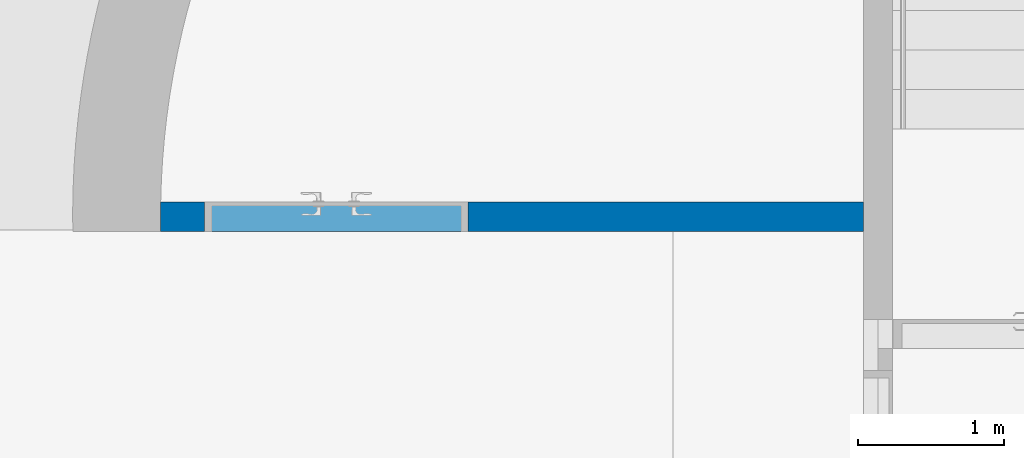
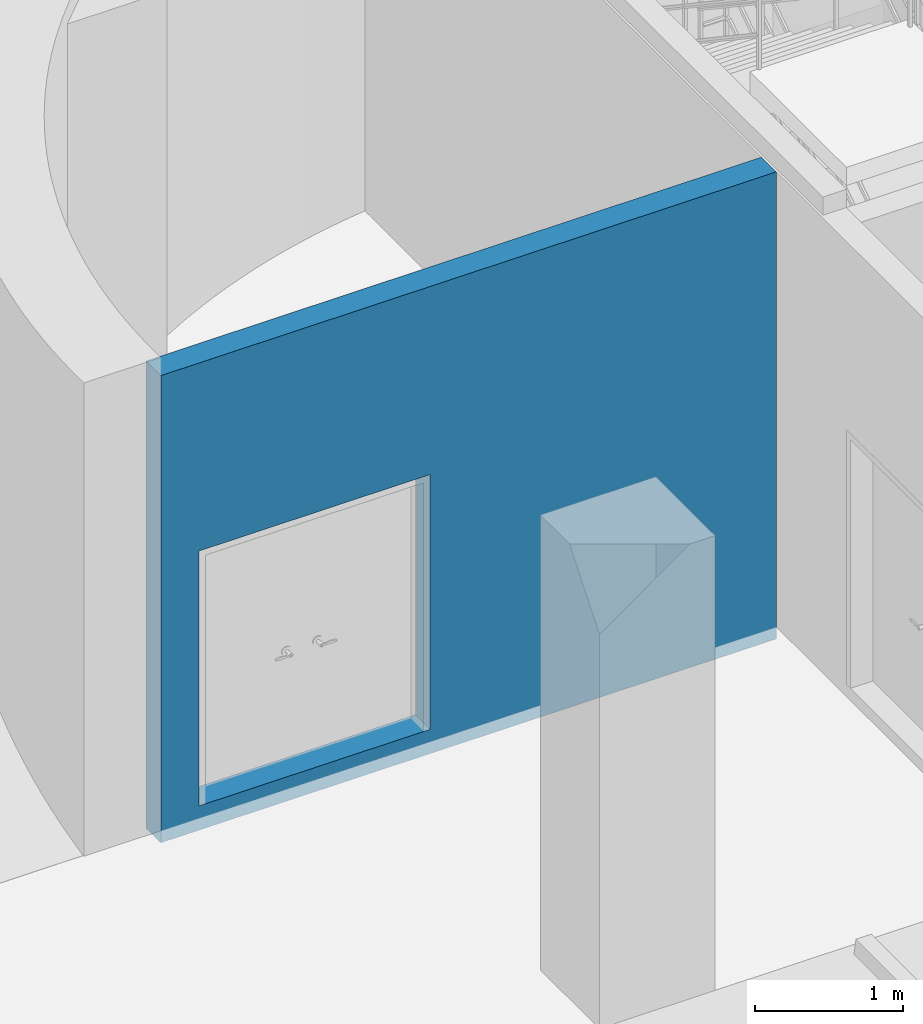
# One storey, part 10 of 30: 1 wall, 1 opening.
"""IFC2X3 building model written with IfcOpenShell, lengths in millimetres."""

from ifc_helpers import new_model, entity, si_unit, converted_unit, derived_unit, direction, frame, frame_2d, origin, place, context, subcontext, project, spatial, polyline, circle_curve, parameter, trimmed, segment, composite_curve, rectangle, outline, extrude, clip, bounded_halfspace, material, layer, layer_set, layer_usage, type_object, element, save


model = new_model("IFC2X3")

# Units and contexts
model_context = context("Model", 3, precision=0.01, world=origin(), true_north=direction((6.123031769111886e-17, 1.0)))
body_context = subcontext(model_context, "Body", "Model", "MODEL_VIEW")
ifc_project = project(units=[si_unit("LENGTHUNIT", "METRE", prefix="MILLI"), si_unit("AREAUNIT", "SQUARE_METRE"), si_unit("VOLUMEUNIT", "CUBIC_METRE"), converted_unit("PLANEANGLEUNIT", "DEGREE", entity("IfcRatioMeasure", 0.017453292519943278), si_unit("PLANEANGLEUNIT", "RADIAN"), dimensions=[0, 0, 0, 0, 0, 0, 0]), si_unit("MASSUNIT", "GRAM", prefix="KILO"), derived_unit("MASSDENSITYUNIT", [(si_unit("MASSUNIT", "GRAM", prefix="KILO"), 1), (si_unit("LENGTHUNIT", "METRE"), -3)]), derived_unit("MOMENTOFINERTIAUNIT", [(si_unit("LENGTHUNIT", "METRE"), 4)]), si_unit("TIMEUNIT", "SECOND"), si_unit("FREQUENCYUNIT", "HERTZ"), si_unit("THERMODYNAMICTEMPERATUREUNIT", "DEGREE_CELSIUS"), derived_unit("THERMALTRANSMITTANCEUNIT", [(si_unit("MASSUNIT", "GRAM", prefix="KILO"), 1), (si_unit("THERMODYNAMICTEMPERATUREUNIT", "KELVIN"), -1), (si_unit("TIMEUNIT", "SECOND"), -3)]), derived_unit("VOLUMETRICFLOWRATEUNIT", [(si_unit("LENGTHUNIT", "METRE"), 3), (si_unit("TIMEUNIT", "SECOND"), -1)]), derived_unit("MASSFLOWRATEUNIT", [(si_unit("MASSUNIT", "GRAM", prefix="KILO"), 1), (si_unit("TIMEUNIT", "SECOND"), -1)]), derived_unit("ROTATIONALFREQUENCYUNIT", [(si_unit("TIMEUNIT", "SECOND"), -1)]), si_unit("ELECTRICCURRENTUNIT", "AMPERE"), si_unit("ELECTRICVOLTAGEUNIT", "VOLT"), si_unit("POWERUNIT", "WATT"), si_unit("FORCEUNIT", "NEWTON", prefix="KILO"), si_unit("ILLUMINANCEUNIT", "LUX"), si_unit("LUMINOUSFLUXUNIT", "LUMEN"), si_unit("LUMINOUSINTENSITYUNIT", "CANDELA"), derived_unit("USERDEFINED", [(si_unit("MASSUNIT", "GRAM", prefix="KILO"), -1), (si_unit("LENGTHUNIT", "METRE"), -2), (si_unit("TIMEUNIT", "SECOND"), 3), (si_unit("LUMINOUSFLUXUNIT", "LUMEN"), 1)]), derived_unit("SOUNDPOWERUNIT", [(si_unit("MASSUNIT", "GRAM", prefix="KILO"), 1), (si_unit("LENGTHUNIT", "METRE"), 2), (si_unit("TIMEUNIT", "SECOND"), -3)]), derived_unit("SOUNDPRESSUREUNIT", [(si_unit("MASSUNIT", "GRAM", prefix="KILO"), 1), (si_unit("LENGTHUNIT", "METRE"), -1), (si_unit("TIMEUNIT", "SECOND"), -2)]), derived_unit("LINEARVELOCITYUNIT", [(si_unit("LENGTHUNIT", "METRE"), 1), (si_unit("TIMEUNIT", "SECOND"), -1)]), si_unit("PRESSUREUNIT", "PASCAL"), derived_unit("USERDEFINED", [(si_unit("LENGTHUNIT", "METRE"), -2), (si_unit("MASSUNIT", "GRAM", prefix="KILO"), 1), (si_unit("TIMEUNIT", "SECOND"), -2)]), derived_unit("LINEARFORCEUNIT", [(si_unit("MASSUNIT", "GRAM", prefix="KILO"), 1), (si_unit("LENGTHUNIT", "METRE"), 1), (si_unit("TIMEUNIT", "SECOND"), -2), (si_unit("LENGTHUNIT", "METRE"), -1)]), derived_unit("PLANARFORCEUNIT", [(si_unit("MASSUNIT", "GRAM", prefix="KILO"), 1), (si_unit("LENGTHUNIT", "METRE"), 1), (si_unit("TIMEUNIT", "SECOND"), -2), (si_unit("LENGTHUNIT", "METRE"), -2)])], contexts=[model_context])

# Site, building, storey
site_placement = place(None, frame((-14167.972527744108, -657.2125860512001, 0.0)))
site = spatial("IfcSite", under=ifc_project, at=site_placement, Name="Default", CompositionType="ELEMENT")
building_placement = place(site_placement, origin())
building = spatial("IfcBuilding", under=site, at=building_placement, Name="Sample Building", CompositionType="ELEMENT")
storey_placement = place(building_placement, frame((0.0, 0.0, -10100.0)))
storey = spatial("IfcBuildingStorey", under=building, at=storey_placement, Name="지하2층", CompositionType="ELEMENT", Elevation=-10100.0)

# Wall, opening
ifc_material = material(Name="KBIMS-콘크리트")
ifc_layer = layer(ifc_material, 200.0)
ifc_layer_set = layer_set([ifc_layer], Name="기본 벽:WA111-철근콘크리트구조 벽 200mm_CW1")
ifc_layer_usage = layer_usage(ifc_layer_set, "AXIS2", "NEGATIVE", 100.0)
wall_type = type_object("IfcWallType", Name="기본 벽:WA111-철근콘크리트구조 벽 200mm_CW1", PredefinedType="STANDARD", material=ifc_layer_set)
wall_placement = place(storey_placement, frame((30066.125814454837, 23157.212307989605, 0.0), z_axis=(0.0, 0.0, 1.0), x_axis=(-1.0, 0.0, 0.0)))
wall = element("IfcWallStandardCase", 1, at=wall_placement, inside=storey, type_object=wall_type, material=ifc_layer_usage, Name="기본 벽:WA111-철근콘크리트구조 벽 200mm_CW1", ObjectType="기본 벽:WA111-철근콘크리트구조 벽 200mm_CW1", context=body_context, shape_type="Clipping", body=[
    clip(extrude(outline(composite_curve([segment(trimmed(circle_curve(frame_2d((-701.8466766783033, 0.0), x_axis=(-1.0, 0.0)), 5499.999999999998), [parameter(178.95820114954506)], [parameter(181.04179885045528)], True, "PARAMETER"), True, "CONTINUOUS"), segment(polyline([(4797.244157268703, 100.0), (0.0, 100.0)]), True, "CONTINUOUS"), segment(polyline([(0.0, 100.0), (0.0, 91.76382819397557)]), True, "CONTINUOUS"), segment(polyline([(0.0, 91.76382819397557), (0.0, -100.0)]), True, "CONTINUOUS"), segment(polyline([(0.0, -100.0), (4797.244157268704, -100.0)]), True, "CONTINUOUS")], self_intersect=False)), origin(), (0.0, 0.0, 1.0), 3849.9999999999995), bounded_halfspace(frame((0.0, -100.0, 3850.0), z_axis=(0.0, 0.0, -1.0), x_axis=(-1.0, 0.0, 0.0)), True, frame((0.0, -100.0, 3850.0), z_axis=(0.0, 0.0, -1.0), x_axis=(-1.0, 0.0, 0.0)), composite_curve([segment(polyline([(0.0, 0.0), (0.0, 60960.0)]), True, "CONTINUOUS"), segment(polyline([(0.0, 60960.0), (-60400.03645563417, 60960.0)]), True, "CONTINUOUS"), segment(polyline([(-60400.03645563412, 60960.0), (-822402.4210321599, 60960.0)]), True, "CONTINUOUS"), segment(polyline([(-822402.4210321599, 60960.0), (-883357.1329484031, 60960.0)]), True, "CONTINUOUS"), segment(polyline([(-883357.1329484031, 60960.0), (-944322.4210321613, 60960.0)]), True, "CONTINUOUS"), segment(polyline([(-944322.4210321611, 60960.0), (-1462200.0191355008, 60960.0)]), True, "CONTINUOUS"), segment(trimmed(circle_curve(frame_2d((213922.86705154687, 30480.0), x_axis=(1.0, 0.0)), 1676399.9999999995), [parameter(178.9582011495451)], [parameter(181.04179885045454)], True, "PARAMETER"), True, "CONTINUOUS"), segment(polyline([(-1462200.019135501, -3.8748960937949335e-09), (-944322.4210321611, -3.8258160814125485e-09)]), True, "CONTINUOUS"), segment(polyline([(-944322.4210321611, -3.82945406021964e-09), (-822402.4210321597, -2.1846295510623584e-09)]), True, "CONTINUOUS"), segment(polyline([(-822402.4210321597, -2.1846295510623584e-09), (-60400.03645563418, 0.0)]), True, "CONTINUOUS"), segment(polyline([(-60400.03645563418, 0.0), (0.0, 0.0)]), True, "CONTINUOUS")], self_intersect=False))),
])
opening_placement = place(wall_placement, frame((4498.153323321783, 100.0, 200.0)))
element("IfcOpeningElement", 2, at=opening_placement, cuts=wall, Name="DR121-쌍여닫이문(철재, 방화문):DR121-쌍여닫이문(철재, 방화문) 1800x2100mm:1", ObjectType="Opening", context=body_context, shape_type="SweptSolid", body=[
    extrude(rectangle(XDim=2099.999999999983, YDim=1799.9999999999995, at=frame_2d((1049.999999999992, 899.9999999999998), x_axis=(1.0, 0.0))), frame((0.0, 0.0, 0.0), z_axis=(0.0, -1.0, 0.0), x_axis=(0.0, 0.0, 1.0)), (0.0, 0.0, 1.0), 200.0),
])

save(model, "model.ifc")
